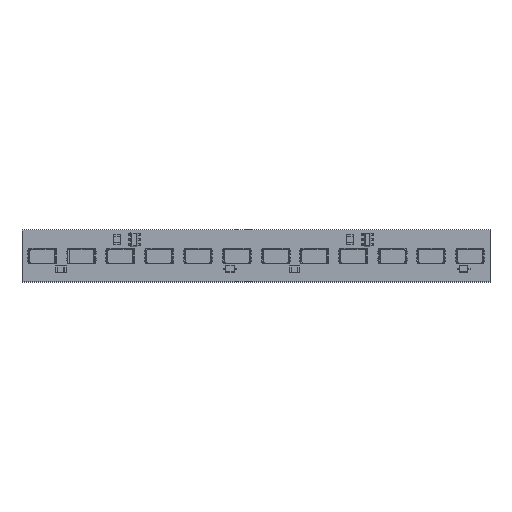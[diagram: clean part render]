
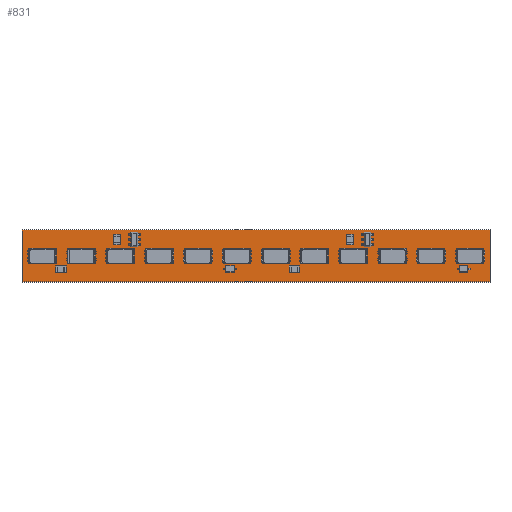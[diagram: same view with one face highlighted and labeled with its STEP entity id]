
A CAD part, top view. The second image highlights one B-rep face of the part: STEP entity #831.
In plain terms, the highlighted planar face has unit normal (0, 0, 1).
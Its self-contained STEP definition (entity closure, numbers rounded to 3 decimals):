
#831=ADVANCED_FACE('12:1032',(#1770),#1771,.T.);
#1770=FACE_OUTER_BOUND('',#2866,.T.);
#1771=PLANE('',#2867);
#2866=EDGE_LOOP('',(#4132,#4133,#4134,#4135));
#2867=AXIS2_PLACEMENT_3D('',#4136,#4137,#4138);
#4132=ORIENTED_EDGE('',*,*,#6787,.F.);
#4133=ORIENTED_EDGE('',*,*,#6800,.F.);
#4134=ORIENTED_EDGE('',*,*,#6796,.F.);
#4135=ORIENTED_EDGE('',*,*,#6792,.F.);
#4136=CARTESIAN_POINT('',(0.0,0.0,0.2));
#4137=DIRECTION('',(0.0,0.0,1.0));
#4138=DIRECTION('',(1.0,0.0,0.0));
#6787=EDGE_CURVE('12:1038',#7846,#7847,#7848,.T.);
#6792=EDGE_CURVE('12:1050',#7847,#7855,#7856,.T.);
#6796=EDGE_CURVE('12:1059',#7855,#7861,#7862,.T.);
#6800=EDGE_CURVE('12:1068',#7861,#7846,#7867,.T.);
#7846=VERTEX_POINT('',#9389);
#7847=VERTEX_POINT('',#9390);
#7848=LINE('',#9391,#9392);
#7855=VERTEX_POINT('',#9402);
#7856=LINE('',#9403,#9404);
#7861=VERTEX_POINT('',#9411);
#7862=LINE('',#9412,#9413);
#7867=LINE('',#9420,#9421);
#9389=CARTESIAN_POINT('',(66.903,-2.038,0.2));
#9390=CARTESIAN_POINT('',(-23.097,-2.038,0.2));
#9391=CARTESIAN_POINT('',(66.903,-2.038,0.2));
#9392=VECTOR('',#11502,1.0);
#9402=CARTESIAN_POINT('',(-23.097,7.962,0.2));
#9403=CARTESIAN_POINT('',(-23.097,-2.038,0.2));
#9404=VECTOR('',#11506,1.0);
#9411=CARTESIAN_POINT('',(66.903,7.962,0.2));
#9412=CARTESIAN_POINT('',(-23.097,7.962,0.2));
#9413=VECTOR('',#11509,1.0);
#9420=CARTESIAN_POINT('',(66.903,7.962,0.2));
#9421=VECTOR('',#11512,1.0);
#11502=DIRECTION('',(-1.0,0.0,0.0));
#11506=DIRECTION('',(0.0,1.0,0.0));
#11509=DIRECTION('',(1.0,0.0,0.0));
#11512=DIRECTION('',(0.0,-1.0,0.0));
